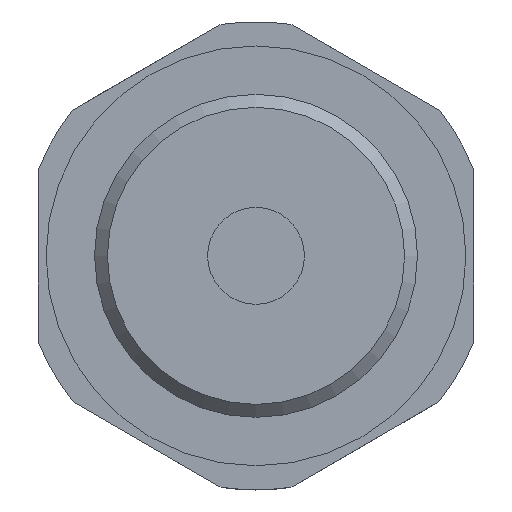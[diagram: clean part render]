
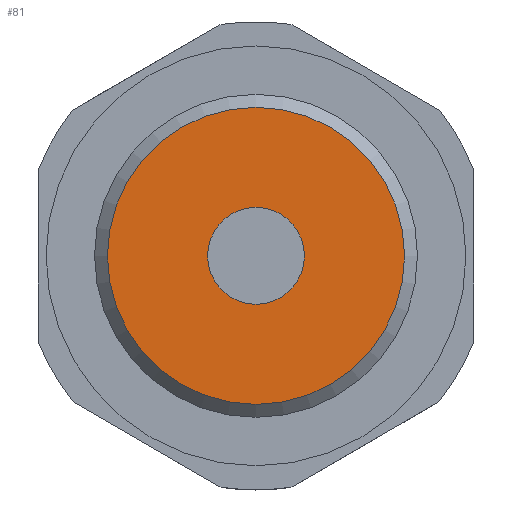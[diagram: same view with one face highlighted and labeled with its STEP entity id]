
A CAD part, front view. The second image highlights one B-rep face of the part: STEP entity #81.
In plain terms, the highlighted planar face has unit normal (0, -1, 0).
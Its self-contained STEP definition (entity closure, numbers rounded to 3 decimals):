
#81 = ADVANCED_FACE( '', ( #122, #123 ), #124, .F. );
#122 = FACE_BOUND( '', #207, .T. );
#123 = FACE_OUTER_BOUND( '', #208, .T. );
#124 = PLANE( '', #209 );
#207 = EDGE_LOOP( '', ( #316 ) );
#208 = EDGE_LOOP( '', ( #317 ) );
#209 = AXIS2_PLACEMENT_3D( '', #318, #319, #320 );
#316 = ORIENTED_EDGE( '', *, *, #504, .F. );
#317 = ORIENTED_EDGE( '', *, *, #506, .T. );
#318 = CARTESIAN_POINT( '', ( 9.2, -8.5, 0. ) );
#319 = DIRECTION( '', ( 0., 1., 0. ) );
#320 = DIRECTION( '', ( 0., 0., 1. ) );
#504 = EDGE_CURVE( '', #575, #575, #576, .T. );
#506 = EDGE_CURVE( '', #579, #579, #580, .T. );
#575 = VERTEX_POINT( '', #702 );
#576 = CIRCLE( '', #703, 3. );
#579 = VERTEX_POINT( '', #706 );
#580 = CIRCLE( '', #707, 9.2 );
#702 = CARTESIAN_POINT( '', ( 0., -8.5, -3. ) );
#703 = AXIS2_PLACEMENT_3D( '', #795, #796, #797 );
#706 = CARTESIAN_POINT( '', ( 0., -8.5, -9.2 ) );
#707 = AXIS2_PLACEMENT_3D( '', #801, #802, #803 );
#795 = CARTESIAN_POINT( '', ( 0., -8.5, 0. ) );
#796 = DIRECTION( '', ( 0., -1., 0. ) );
#797 = DIRECTION( '', ( 0., 0., -1. ) );
#801 = CARTESIAN_POINT( '', ( 0., -8.5, 0. ) );
#802 = DIRECTION( '', ( 0., -1., 0. ) );
#803 = DIRECTION( '', ( 0., 0., -1. ) );
